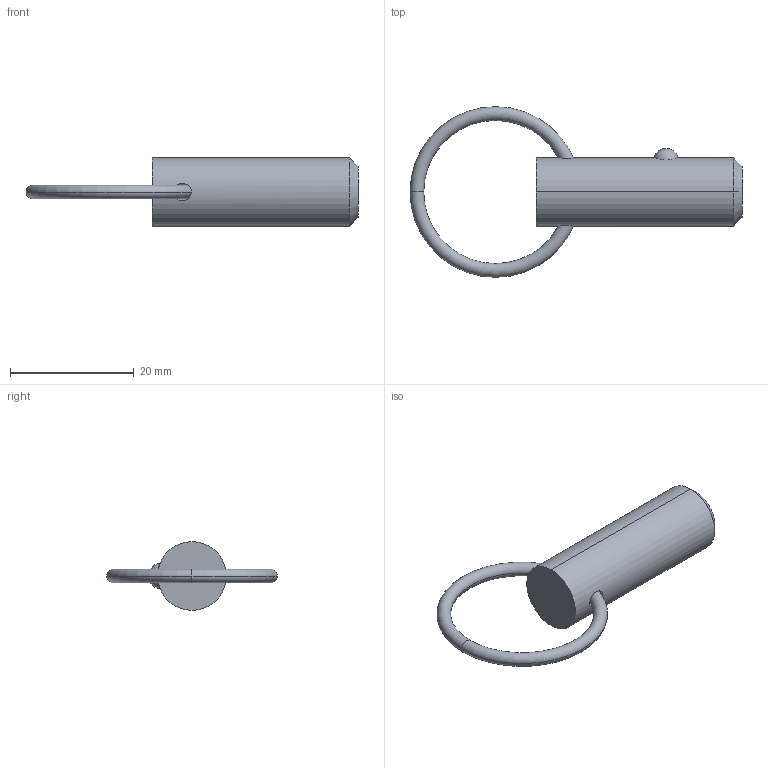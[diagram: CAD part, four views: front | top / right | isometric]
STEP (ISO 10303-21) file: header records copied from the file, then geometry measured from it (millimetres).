
FILE_DESCRIPTION (( 'STEP AP203' ), '1' );
FILE_NAME ('33012.W4305.step', '2024-11-01T14:10:54', ( '' ), ( '' ), 'SwSTEP 2.0', 'SolidWorks 2019', '' );
FILE_SCHEMA (( 'CONFIG_CONTROL_DESIGN' ));
Length unit declared in the file: millimetre
Products named in the file (3): Part2_33012.W4305; Part1_33012.W4305; 33012.W4305
Assembly tree (2 placements, depth 2):
  33012.W4305
    Part1_33012.W4305
    Part2_33012.W4305
Bounding box: 53.73 x 27.62 x 11.11 mm (x, y, z)
Volume: 3451.6 mm3; surface area: 1976.8 mm2
Topology: 2 solids, 2 shells, 16 faces, 31 edges, 18 vertices
Faces by surface type: torus 8, sphere 2, cone 2, cylinder 2, plane 2
Entity records: 863 total; most frequent: CARTESIAN_POINT 220, DIRECTION 88, ORIENTED_EDGE 62, AXIS2_PLACEMENT_3D 42, EDGE_CURVE 31, PERSON_AND_ORGANIZATION 26, CIRCLE 21, COORDINATED_UNIVERSAL_TIME_OFFSET 19
